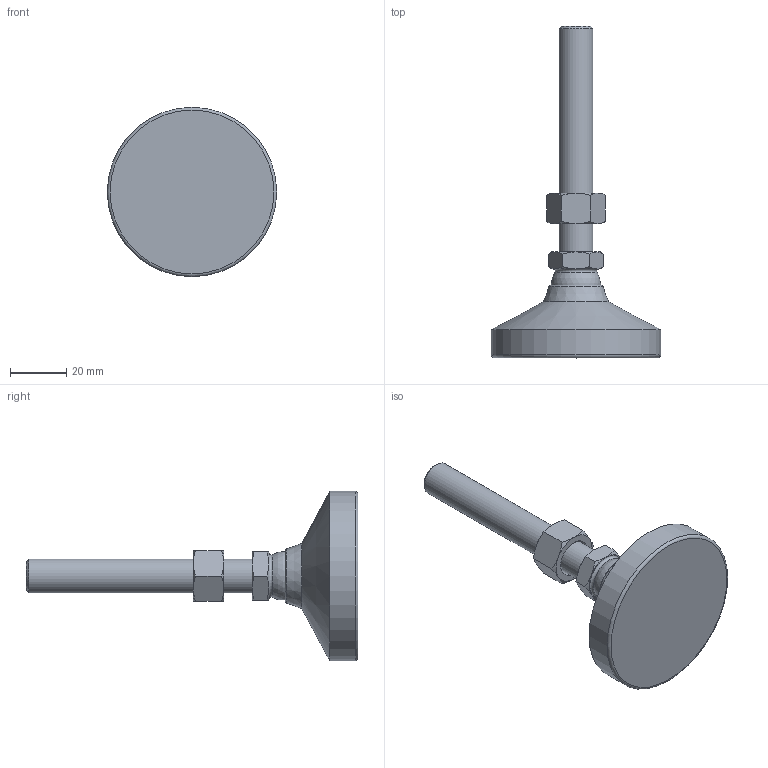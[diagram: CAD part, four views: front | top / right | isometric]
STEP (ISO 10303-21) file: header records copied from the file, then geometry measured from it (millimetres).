
FILE_DESCRIPTION( ( 'STEP AP214' ), ' ' );
FILE_NAME( 'O:/ganter_2015/teil_2/2_5/gn343_2/gn343_2_kr/Levelling foot with threaded stud GN 343.2-60-M12-80-KR-(0).stp', '2015-10-26T09:14:05', ( '' ), ( '' ), ' ', 'PARTsolutions', ' ' );
FILE_SCHEMA( ( 'AUTOMOTIVE_DESIGN { 1 0 10303 214 1 1 1 1 }' ) );
Length unit declared in the file: millimetre
Products named in the file (4): Levelling foot with threaded stud GN 343.2-60-M12-80-KR-(0); _Levelling foot with threaded stud GN 343.2-60-M12-80-KR-(0)_foot; _Levelling foot with threaded stud GN 343.2-60-M12-80-KR-(0)_screw; _Levelling foot with threaded stud GN 343.2-60-M12-80-KR-(0)_nut
Assembly tree (3 placements, depth 2):
  Levelling foot with threaded stud GN 343.2-60-M12-80-KR-(0)
    _Levelling foot with threaded stud GN 343.2-60-M12-80-KR-(0)_foot
    _Levelling foot with threaded stud GN 343.2-60-M12-80-KR-(0)_screw
    _Levelling foot with threaded stud GN 343.2-60-M12-80-KR-(0)_nut
Bounding box: 60 x 117.5 x 60 mm (x, y, z)
Volume: 58346.6 mm3; surface area: 14058.8 mm2
Topology: 3 solids, 3 shells, 56 faces, 117 edges, 68 vertices
Faces by surface type: cone 29, plane 19, torus 3, cylinder 3, sphere 2
Full cylindrical faces by diameter (mm): 10.106 x1, 12 x1, 60 x1
Entity records: 2066 total; most frequent: CARTESIAN_POINT 498, DIRECTION 212, ORIENTED_EDGE 200, AXIS2_PLACEMENT_3D 100, EDGE_CURVE 100, EDGE_LOOP 72, VERTEX_POINT 66, FACE_OUTER_BOUND 62
